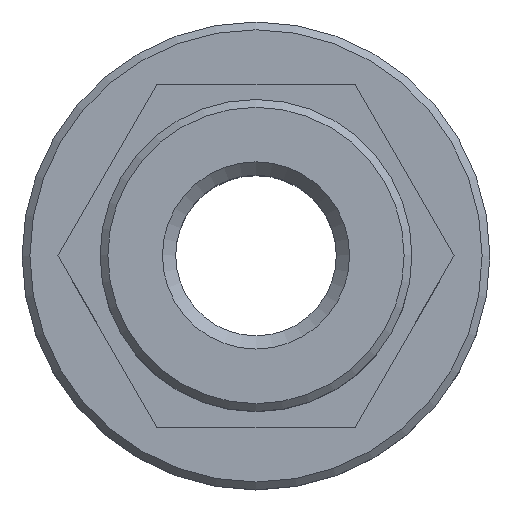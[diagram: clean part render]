
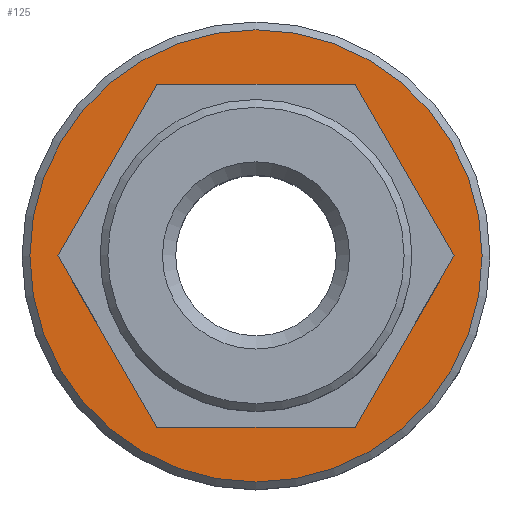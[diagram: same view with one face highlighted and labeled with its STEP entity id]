
A CAD part, top view. The second image highlights one B-rep face of the part: STEP entity #125.
In plain terms, the highlighted planar face has unit normal (0, 0, 1).
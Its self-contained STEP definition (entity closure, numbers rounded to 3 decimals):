
#125=ADVANCED_FACE('',(#194,#195),#136,.T.);
#136=PLANE('',#376);
#144=LINE('',#478,#162);
#148=LINE('',#486,#166);
#150=LINE('',#490,#168);
#152=LINE('',#494,#170);
#154=LINE('',#498,#172);
#155=LINE('',#524,#173);
#162=VECTOR('',#397,1.);
#166=VECTOR('',#403,1.);
#168=VECTOR('',#407,1.);
#170=VECTOR('',#411,1.);
#172=VECTOR('',#415,1.);
#173=VECTOR('',#450,1.);
#194=FACE_BOUND('',#223,.T.);
#195=FACE_BOUND('',#224,.T.);
#223=EDGE_LOOP('',(#273));
#224=EDGE_LOOP('',(#274,#275,#276,#277,#278,#279));
#273=ORIENTED_EDGE('',*,*,#336,.T.);
#274=ORIENTED_EDGE('',*,*,#322,.F.);
#275=ORIENTED_EDGE('',*,*,#337,.F.);
#276=ORIENTED_EDGE('',*,*,#318,.T.);
#277=ORIENTED_EDGE('',*,*,#328,.F.);
#278=ORIENTED_EDGE('',*,*,#326,.F.);
#279=ORIENTED_EDGE('',*,*,#324,.F.);
#295=VERTEX_POINT('',#479);
#296=VERTEX_POINT('',#480);
#297=VERTEX_POINT('',#485);
#298=VERTEX_POINT('',#487);
#299=VERTEX_POINT('',#491);
#300=VERTEX_POINT('',#495);
#308=VERTEX_POINT('',#523);
#318=EDGE_CURVE('',#295,#296,#144,.T.);
#322=EDGE_CURVE('',#297,#298,#148,.T.);
#324=EDGE_CURVE('',#298,#299,#150,.T.);
#326=EDGE_CURVE('',#299,#300,#152,.T.);
#328=EDGE_CURVE('',#300,#296,#154,.T.);
#336=EDGE_CURVE('',#308,#308,#348,.T.);
#337=EDGE_CURVE('',#295,#297,#155,.T.);
#348=CIRCLE('',#375,14.5);
#375=AXIS2_PLACEMENT_3D('',#522,#448,#449);
#376=AXIS2_PLACEMENT_3D('',#525,#451,#452);
#397=DIRECTION('',(1.,0.,0.));
#403=DIRECTION('',(0.5,-0.866,0.));
#407=DIRECTION('',(1.,0.,0.));
#411=DIRECTION('',(0.5,0.866,0.));
#415=DIRECTION('',(-0.5,0.866,0.));
#448=DIRECTION('',(0.,0.,1.));
#449=DIRECTION('',(1.,0.,0.));
#450=DIRECTION('',(-0.5,-0.866,0.));
#451=DIRECTION('',(0.,0.,1.));
#452=DIRECTION('',(1.,0.,0.));
#478=CARTESIAN_POINT('',(25.,11.,6.));
#479=CARTESIAN_POINT('',(-6.351,11.,6.));
#480=CARTESIAN_POINT('',(6.351,11.,6.));
#485=CARTESIAN_POINT('',(-12.702,0.,6.));
#486=CARTESIAN_POINT('',(-22.026,16.151,6.));
#487=CARTESIAN_POINT('',(-6.351,-11.,6.));
#490=CARTESIAN_POINT('',(-25.,-11.,6.));
#491=CARTESIAN_POINT('',(6.351,-11.,6.));
#494=CARTESIAN_POINT('',(-2.974,-27.151,6.));
#495=CARTESIAN_POINT('',(12.702,0.,6.));
#498=CARTESIAN_POINT('',(22.026,-16.151,6.));
#522=CARTESIAN_POINT('',(0.,0.,6.));
#523=CARTESIAN_POINT('',(14.5,0.,6.));
#524=CARTESIAN_POINT('',(2.974,27.151,6.));
#525=CARTESIAN_POINT('',(25.,11.,6.));
